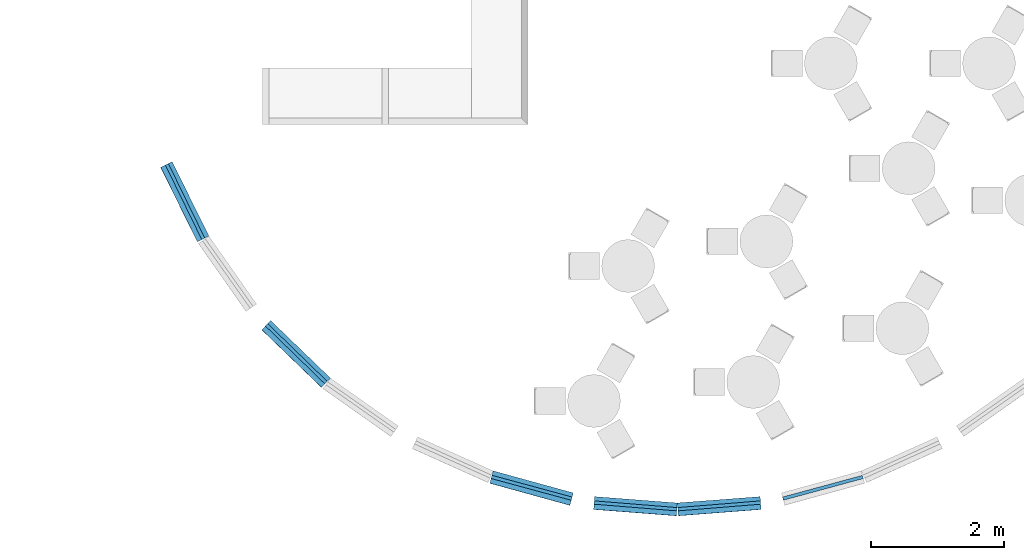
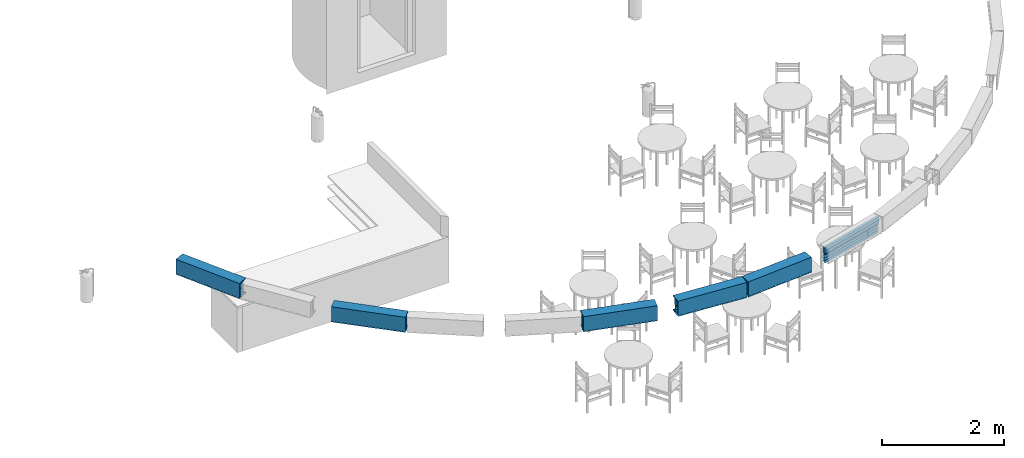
# One storey, part 2 of 6: 11 beams.
"""IFC4 building model written with IfcOpenShell, lengths in millimetres."""

from ifc_helpers import new_model, entity, si_unit, converted_unit, derived_unit, direction, frame, origin_with_axes, place, context, subcontext, project, spatial, line, indexed_curve, outline, composite_profile, extrude, polygons, source, transform, mapped, material, material_profile, profile_set, type_object, element, save


model = new_model("IFC4")

# Units and contexts
model_context = context("Model", 3, precision=0.01, world=origin_with_axes(), true_north=direction((0.0, 1.0)))
body_context = subcontext(model_context, "Body", "Model", "MODEL_VIEW")
ifc_project = project(units=[si_unit("LENGTHUNIT", "METRE", prefix="MILLI"), si_unit("AREAUNIT", "SQUARE_METRE"), si_unit("VOLUMEUNIT", "CUBIC_METRE"), converted_unit("PLANEANGLEUNIT", "DEGREE", entity("IfcPlaneAngleMeasure", 0.0174532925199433), si_unit("PLANEANGLEUNIT", "RADIAN"), dimensions=[0, 0, 0, 0, 0, 0, 0]), converted_unit("TIMEUNIT", "Year", entity("IfcTimeMeasure", 31557600.0), si_unit("TIMEUNIT", "SECOND"), dimensions=[0, 0, 1, 0, 0, 0, 0]), si_unit("MASSUNIT", "GRAM", prefix="KILO"), si_unit("THERMODYNAMICTEMPERATUREUNIT", "DEGREE_CELSIUS"), si_unit("LUMINOUSINTENSITYUNIT", "LUMEN"), si_unit("ENERGYUNIT", "JOULE", prefix="MEGA"), derived_unit("THERMALCONDUCTANCEUNIT", [(si_unit("POWERUNIT", "WATT"), 1), (si_unit("LENGTHUNIT", "METRE"), -1), (si_unit("THERMODYNAMICTEMPERATUREUNIT", "KELVIN"), -1)]), derived_unit("SPECIFICHEATCAPACITYUNIT", [(si_unit("ENERGYUNIT", "JOULE"), 1), (si_unit("MASSUNIT", "GRAM", prefix="KILO"), -1), (si_unit("THERMODYNAMICTEMPERATUREUNIT", "KELVIN"), -1)]), derived_unit("MASSDENSITYUNIT", [(si_unit("MASSUNIT", "GRAM", prefix="KILO"), 1), (si_unit("VOLUMEUNIT", "CUBIC_METRE"), -1)])], contexts=[model_context])

# Site, building, storey
site_placement = place(None, origin_with_axes())
site = spatial("IfcSite", under=ifc_project, at=site_placement, Name="Exteriér", CompositionType="ELEMENT")
building_placement = place(site_placement, origin_with_axes())
building = spatial("IfcBuilding", under=site, at=building_placement, Name="Univerzitní lezecké centrum", CompositionType="ELEMENT")
storey_placement = place(building_placement, origin_with_axes())
storey = spatial("IfcBuildingStorey", under=building, at=storey_placement, Name="1.NP", CompositionType="ELEMENT", Elevation=0.0)

# Beams
beam_type_1 = type_object("IfcBeamType", Name="Benátské žaluzie 27", PredefinedType="BEAM")
shared_shape_1 = source(origin_with_axes(), body_context, "Body", "Tessellation", [
    polygons([(1250.0, 0.0, 2660.0), (0.0, 0.0, 2660.0), (0.0, 50.0, 2660.0), (1250.0, 50.0, 2660.0), (1250.0, 0.0, 2780.0), (0.0, 0.0, 2780.0), (0.0, 50.0, 2780.0), (1250.0, 50.0, 2780.0)], [[[1, 2, 3, 4]], [[2, 1, 5, 6]], [[3, 2, 6, 7]], [[4, 3, 7, 8]], [[1, 4, 8, 5]], [[6, 5, 8, 7]]], closed=True),
    polygons([(250.5, 5.688538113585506, 2500.0), (249.5, 5.688538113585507, 2500.0), (249.0, 6.554563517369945, 2500.0), (249.5, 7.420588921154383, 2500.0), (250.5, 7.420588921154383, 2500.0), (251.0, 6.554563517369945, 2500.0), (250.5, 5.688538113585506, 2660.0), (249.5, 5.688538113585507, 2660.0), (249.0, 6.554563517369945, 2660.0), (249.5, 7.420588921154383, 2660.0), (250.5, 7.420588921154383, 2660.0), (251.0, 6.554563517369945, 2660.0)], [[[1, 2, 3, 4, 5, 6]], [[2, 1, 7, 8]], [[3, 2, 8, 9]], [[4, 3, 9, 10]], [[5, 4, 10, 11]], [[6, 5, 11, 12]], [[1, 6, 12, 7]], [[7, 12, 11, 10, 9, 8]]], closed=True),
    polygons([(250.5, 42.57941107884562, 2500.0), (249.5, 42.57941107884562, 2500.0), (249.0, 43.44543648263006, 2500.0), (249.5, 44.31146188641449, 2500.0), (250.5, 44.31146188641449, 2500.0), (251.0, 43.44543648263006, 2500.0), (250.5, 42.57941107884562, 2660.0), (249.5, 42.57941107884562, 2660.0), (249.0, 43.44543648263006, 2660.0), (249.5, 44.31146188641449, 2660.0), (250.5, 44.31146188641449, 2660.0), (251.0, 43.44543648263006, 2660.0)], [[[1, 2, 3, 4, 5, 6]], [[2, 1, 7, 8]], [[3, 2, 8, 9]], [[4, 3, 9, 10]], [[5, 4, 10, 11]], [[6, 5, 11, 12]], [[1, 6, 12, 7]], [[7, 12, 11, 10, 9, 8]]], closed=True),
    polygons([(1000.5, 5.688538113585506, 2500.0), (999.5, 5.688538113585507, 2500.0), (999.0, 6.554563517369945, 2500.0), (999.5, 7.420588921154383, 2500.0), (1000.5, 7.420588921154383, 2500.0), (1001.0, 6.554563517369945, 2500.0), (1000.5, 5.688538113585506, 2660.0), (999.5, 5.688538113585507, 2660.0), (999.0, 6.554563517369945, 2660.0), (999.5, 7.420588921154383, 2660.0), (1000.5, 7.420588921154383, 2660.0), (1001.0, 6.554563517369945, 2660.0)], [[[1, 2, 3, 4, 5, 6]], [[2, 1, 7, 8]], [[3, 2, 8, 9]], [[4, 3, 9, 10]], [[5, 4, 10, 11]], [[6, 5, 11, 12]], [[1, 6, 12, 7]], [[7, 12, 11, 10, 9, 8]]], closed=True),
    polygons([(1000.5, 42.57941107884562, 2500.0), (999.5, 42.57941107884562, 2500.0), (999.0, 43.44543648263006, 2500.0), (999.5, 44.31146188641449, 2500.0), (1000.5, 44.31146188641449, 2500.0), (1001.0, 43.44543648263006, 2500.0), (1000.5, 42.57941107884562, 2660.0), (999.5, 42.57941107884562, 2660.0), (999.0, 43.44543648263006, 2660.0), (999.5, 44.31146188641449, 2660.0), (1000.5, 44.31146188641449, 2660.0), (1001.0, 43.44543648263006, 2660.0)], [[[1, 2, 3, 4, 5, 6]], [[2, 1, 7, 8]], [[3, 2, 8, 9]], [[4, 3, 9, 10]], [[5, 4, 10, 11]], [[6, 5, 11, 12]], [[1, 6, 12, 7]], [[7, 12, 11, 10, 9, 8]]], closed=True),
    polygons([(1250.0, 2.019029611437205, 2477.019029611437), (0.0, 2.019029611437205, 2477.019029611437), (0.0, 47.9809703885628, 2522.980970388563), (1250.0, 47.9809703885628, 2522.980970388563), (1250.0, 1.94831893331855, 2477.089740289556), (0.0, 1.94831893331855, 2477.089740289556), (0.0, 47.91025971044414, 2523.051681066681), (1250.0, 47.91025971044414, 2523.051681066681)], [[[1, 2, 3, 4]], [[2, 1, 5, 6]], [[3, 2, 6, 7]], [[4, 3, 7, 8]], [[1, 4, 8, 5]], [[6, 5, 8, 7]]], closed=True),
    polygons([(1250.0, 2.019029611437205, 2529.019029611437), (0.0, 2.019029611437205, 2529.019029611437), (0.0, 47.9809703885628, 2574.980970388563), (1250.0, 47.9809703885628, 2574.980970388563), (1250.0, 1.94831893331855, 2529.089740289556), (0.0, 1.94831893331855, 2529.089740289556), (0.0, 47.91025971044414, 2575.051681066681), (1250.0, 47.91025971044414, 2575.051681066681)], [[[1, 2, 3, 4]], [[2, 1, 5, 6]], [[3, 2, 6, 7]], [[4, 3, 7, 8]], [[1, 4, 8, 5]], [[6, 5, 8, 7]]], closed=True),
    polygons([(1250.0, 2.019029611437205, 2581.019029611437), (0.0, 2.019029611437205, 2581.019029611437), (0.0, 47.9809703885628, 2626.980970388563), (1250.0, 47.9809703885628, 2626.980970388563), (1250.0, 1.94831893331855, 2581.089740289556), (0.0, 1.94831893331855, 2581.089740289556), (0.0, 47.91025971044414, 2627.051681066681), (1250.0, 47.91025971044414, 2627.051681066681)], [[[1, 2, 3, 4]], [[2, 1, 5, 6]], [[3, 2, 6, 7]], [[4, 3, 7, 8]], [[1, 4, 8, 5]], [[6, 5, 8, 7]]], closed=True),
    polygons([(1250.0, 2.019029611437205, 2633.019029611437), (0.0, 2.019029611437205, 2633.019029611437), (0.0, 47.9809703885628, 2678.980970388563), (1250.0, 47.9809703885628, 2678.980970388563), (1250.0, 1.94831893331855, 2633.089740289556), (0.0, 1.94831893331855, 2633.089740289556), (0.0, 47.91025971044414, 2679.051681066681), (1250.0, 47.91025971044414, 2679.051681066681)], [[[1, 2, 3, 4]], [[2, 1, 5, 6]], [[3, 2, 6, 7]], [[4, 3, 7, 8]], [[1, 4, 8, 5]], [[6, 5, 8, 7]]], closed=True),
    polygons([(1250.0, 2.019029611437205, 2685.019029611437), (0.0, 2.019029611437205, 2685.019029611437), (0.0, 47.9809703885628, 2730.980970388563), (1250.0, 47.9809703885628, 2730.980970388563), (1250.0, 1.94831893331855, 2685.089740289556), (0.0, 1.94831893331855, 2685.089740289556), (0.0, 47.91025971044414, 2731.051681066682), (1250.0, 47.91025971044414, 2731.051681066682)], [[[1, 2, 3, 4]], [[2, 1, 5, 6]], [[3, 2, 6, 7]], [[4, 3, 7, 8]], [[1, 4, 8, 5]], [[6, 5, 8, 7]]], closed=True),
])
for number, where, z_axis, x_axis, name in (
    (1, (1195.766088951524, -8518.614067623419, 0.0), (0.0, 0.0, 1.0), (0.9967625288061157, -0.0804018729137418, 0.0), "OV11"),
    (2, (4047.005502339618, -8459.249430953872, 0.0), (0.0, 0.0, 1.0), (0.9651394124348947, 0.261736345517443, 0.0), "OV11"),
    (3, (-5260.179149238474, -3410.443930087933, 0.0), (0.0, 0.0, 1.0), (0.4390979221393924, -0.8984392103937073, 0.0), "OV11"),
    (4, (-3753.097023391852, -5835.356464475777, 0.0), (0.0, 0.0, 1.0), (0.7171771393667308, -0.6968909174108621, 0.0), "OV11"),
):
    element("IfcBeam", number, at=place(storey_placement, frame(where, z_axis=z_axis, x_axis=x_axis)), inside=storey, type_object=beam_type_1, Name=name, PredefinedType="BEAM", context=body_context, shape_type="MappedRepresentation", body=[
        mapped(shared_shape_1, transform((0.0, 0.0, 0.0))),
    ])
shared_shape_2 = source(origin_with_axes(), body_context, "Body", "Tessellation", [
    polygons([(-1250.0, 0.0, 2660.0), (-1250.0, 50.0, 2660.0), (0.0, 50.0, 2660.0), (0.0, 0.0, 2660.0), (-1250.0, 0.0, 2780.0), (-1250.0, 50.0, 2780.0), (0.0, 50.0, 2780.0), (0.0, 0.0, 2780.0)], [[[1, 2, 3, 4]], [[1, 5, 6, 2]], [[2, 6, 7, 3]], [[3, 7, 8, 4]], [[4, 8, 5, 1]], [[8, 7, 6, 5]]], closed=True),
    polygons([(-250.5, 5.688538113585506, 2500.0), (-251.0, 6.554563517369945, 2500.0), (-250.5, 7.420588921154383, 2500.0), (-249.5, 7.420588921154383, 2500.0), (-249.0, 6.554563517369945, 2500.0), (-249.5, 5.688538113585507, 2500.0), (-250.5, 5.688538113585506, 2660.0), (-251.0, 6.554563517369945, 2660.0), (-250.5, 7.420588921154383, 2660.0), (-249.5, 7.420588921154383, 2660.0), (-249.0, 6.554563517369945, 2660.0), (-249.5, 5.688538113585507, 2660.0)], [[[1, 2, 3, 4, 5, 6]], [[1, 7, 8, 2]], [[2, 8, 9, 3]], [[3, 9, 10, 4]], [[4, 10, 11, 5]], [[5, 11, 12, 6]], [[6, 12, 7, 1]], [[7, 12, 11, 10, 9, 8]]], closed=True),
    polygons([(-250.5, 42.57941107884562, 2500.0), (-251.0, 43.44543648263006, 2500.0), (-250.5, 44.31146188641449, 2500.0), (-249.5, 44.31146188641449, 2500.0), (-249.0, 43.44543648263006, 2500.0), (-249.5, 42.57941107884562, 2500.0), (-250.5, 42.57941107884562, 2660.0), (-251.0, 43.44543648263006, 2660.0), (-250.5, 44.31146188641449, 2660.0), (-249.5, 44.31146188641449, 2660.0), (-249.0, 43.44543648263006, 2660.0), (-249.5, 42.57941107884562, 2660.0)], [[[1, 2, 3, 4, 5, 6]], [[1, 7, 8, 2]], [[2, 8, 9, 3]], [[3, 9, 10, 4]], [[4, 10, 11, 5]], [[5, 11, 12, 6]], [[6, 12, 7, 1]], [[7, 12, 11, 10, 9, 8]]], closed=True),
    polygons([(-1000.5, 5.688538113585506, 2500.0), (-1001.0, 6.554563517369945, 2500.0), (-1000.5, 7.420588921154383, 2500.0), (-999.5, 7.420588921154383, 2500.0), (-999.0, 6.554563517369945, 2500.0), (-999.5, 5.688538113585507, 2500.0), (-1000.5, 5.688538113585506, 2660.0), (-1001.0, 6.554563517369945, 2660.0), (-1000.5, 7.420588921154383, 2660.0), (-999.5, 7.420588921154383, 2660.0), (-999.0, 6.554563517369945, 2660.0), (-999.5, 5.688538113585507, 2660.0)], [[[1, 2, 3, 4, 5, 6]], [[1, 7, 8, 2]], [[2, 8, 9, 3]], [[3, 9, 10, 4]], [[4, 10, 11, 5]], [[5, 11, 12, 6]], [[6, 12, 7, 1]], [[7, 12, 11, 10, 9, 8]]], closed=True),
    polygons([(-1000.5, 42.57941107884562, 2500.0), (-1001.0, 43.44543648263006, 2500.0), (-1000.5, 44.31146188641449, 2500.0), (-999.5, 44.31146188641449, 2500.0), (-999.0, 43.44543648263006, 2500.0), (-999.5, 42.57941107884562, 2500.0), (-1000.5, 42.57941107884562, 2660.0), (-1001.0, 43.44543648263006, 2660.0), (-1000.5, 44.31146188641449, 2660.0), (-999.5, 44.31146188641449, 2660.0), (-999.0, 43.44543648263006, 2660.0), (-999.5, 42.57941107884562, 2660.0)], [[[1, 2, 3, 4, 5, 6]], [[1, 7, 8, 2]], [[2, 8, 9, 3]], [[3, 9, 10, 4]], [[4, 10, 11, 5]], [[5, 11, 12, 6]], [[6, 12, 7, 1]], [[7, 12, 11, 10, 9, 8]]], closed=True),
    polygons([(-1250.0, 2.019029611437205, 2477.019029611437), (-1250.0, 47.9809703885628, 2522.980970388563), (0.0, 47.9809703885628, 2522.980970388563), (0.0, 2.019029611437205, 2477.019029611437), (-1250.0, 1.94831893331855, 2477.089740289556), (-1250.0, 47.91025971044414, 2523.051681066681), (0.0, 47.91025971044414, 2523.051681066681), (0.0, 1.94831893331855, 2477.089740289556)], [[[1, 2, 3, 4]], [[1, 5, 6, 2]], [[2, 6, 7, 3]], [[3, 7, 8, 4]], [[4, 8, 5, 1]], [[8, 7, 6, 5]]], closed=True),
    polygons([(-1250.0, 2.019029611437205, 2529.019029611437), (-1250.0, 47.9809703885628, 2574.980970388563), (0.0, 47.9809703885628, 2574.980970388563), (0.0, 2.019029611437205, 2529.019029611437), (-1250.0, 1.94831893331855, 2529.089740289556), (-1250.0, 47.91025971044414, 2575.051681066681), (0.0, 47.91025971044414, 2575.051681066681), (0.0, 1.94831893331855, 2529.089740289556)], [[[1, 2, 3, 4]], [[1, 5, 6, 2]], [[2, 6, 7, 3]], [[3, 7, 8, 4]], [[4, 8, 5, 1]], [[8, 7, 6, 5]]], closed=True),
    polygons([(-1250.0, 2.019029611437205, 2581.019029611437), (-1250.0, 47.9809703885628, 2626.980970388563), (0.0, 47.9809703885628, 2626.980970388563), (0.0, 2.019029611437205, 2581.019029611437), (-1250.0, 1.94831893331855, 2581.089740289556), (-1250.0, 47.91025971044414, 2627.051681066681), (0.0, 47.91025971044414, 2627.051681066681), (0.0, 1.94831893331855, 2581.089740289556)], [[[1, 2, 3, 4]], [[1, 5, 6, 2]], [[2, 6, 7, 3]], [[3, 7, 8, 4]], [[4, 8, 5, 1]], [[8, 7, 6, 5]]], closed=True),
    polygons([(-1250.0, 2.019029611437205, 2633.019029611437), (-1250.0, 47.9809703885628, 2678.980970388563), (0.0, 47.9809703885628, 2678.980970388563), (0.0, 2.019029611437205, 2633.019029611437), (-1250.0, 1.94831893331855, 2633.089740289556), (-1250.0, 47.91025971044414, 2679.051681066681), (0.0, 47.91025971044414, 2679.051681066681), (0.0, 1.94831893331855, 2633.089740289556)], [[[1, 2, 3, 4]], [[1, 5, 6, 2]], [[2, 6, 7, 3]], [[3, 7, 8, 4]], [[4, 8, 5, 1]], [[8, 7, 6, 5]]], closed=True),
    polygons([(-1250.0, 2.019029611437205, 2685.019029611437), (-1250.0, 47.9809703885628, 2730.980970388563), (0.0, 47.9809703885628, 2730.980970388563), (0.0, 2.019029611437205, 2685.019029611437), (-1250.0, 1.94831893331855, 2685.089740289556), (-1250.0, 47.91025971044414, 2731.051681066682), (0.0, 47.91025971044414, 2731.051681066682), (0.0, 1.94831893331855, 2685.089740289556)], [[[1, 2, 3, 4]], [[1, 5, 6, 2]], [[2, 6, 7, 3]], [[3, 7, 8, 4]], [[4, 8, 5, 1]], [[8, 7, 6, 5]]], closed=True),
])
for number, where, z_axis, x_axis, name in (
    (5, (3706.320387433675, -8518.614067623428, 0.0), (0.0, 0.0, 1.0), (0.9967625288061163, 0.08040187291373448, 0.0), "OV11"),
    (6, (852.9700214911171, -8459.302712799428, 0.0), (0.0, 0.0, 1.0), (0.9651481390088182, -0.2617041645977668, 0.0), "OV11"),
):
    element("IfcBeam", number, at=place(storey_placement, frame(where, z_axis=z_axis, x_axis=x_axis)), inside=storey, type_object=beam_type_1, Name=name, PredefinedType="BEAM", context=body_context, shape_type="MappedRepresentation", body=[
        mapped(shared_shape_2, transform((0.0, 0.0, 0.0))),
    ])
ifc_material_1 = material(Name="Tepelná izolace - purenit")
ifc_material_profile_1 = material_profile(ifc_material_1, outline(indexed_curve([(0.0, 0.0), (20.00000298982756, 0.0), (20.00000214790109, 14.99999879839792), (20.00000298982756, 280.2088283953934), (20.00000298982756, 299.7478608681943), (4.466595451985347e-06, 299.7478608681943), (-2.257316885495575e-06, 14.99999879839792)], segments=[line(1, 2, 3, 4, 5, 6, 7, 1)])), Name="Tepelná izolace - purenit 1")
ifc_material_profile_2 = material_profile(ifc_material_1, outline(indexed_curve([(20.0000037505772, 299.7478608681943), (20.0000037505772, 280.2088261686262), (106.1411099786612, 280.2088249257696), (123.1338630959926, 280.2088249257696), (193.0000299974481, 280.2088261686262), (193.0000299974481, 299.7478608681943)], segments=[line(1, 2, 3, 4, 5, 6, 1)])), Name="Tepelná izolace - purenit 2")
ifc_material_2 = material(Name="Hliník")
ifc_material_profile_3 = material_profile(ifc_material_2, outline(indexed_curve([(-2.257316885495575e-06, 14.99999879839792), (-2.000000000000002, 14.99999879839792), (-1.999995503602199, -2.25731666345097e-06), (-1.999995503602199, -1.99999999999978), (22.00000438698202, -1.99999999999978), (22.00000438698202, 14.99999879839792), (20.00000214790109, 14.99999879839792), (20.00000214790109, 2.239081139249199e-06), (2.239080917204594e-06, 2.239081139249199e-06)], segments=[line(1, 2, 3, 4, 5, 6, 7, 8, 9, 1)])), Name="Hliník 1")
ifc_material_profile_4 = material_profile(ifc_material_2, outline(indexed_curve([(106.1411099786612, 278.2010085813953), (120.9999087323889, 278.2189550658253), (120.9999087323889, -1.999997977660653), (193.0000306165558, -2.022881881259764), (193.0000306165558, 22.99604630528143), (191.0000296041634, 22.99604630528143), (191.0000296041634, 0.0006370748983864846), (123.4722741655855, 0.0006370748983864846), (123.1435086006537, 272.2215421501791), (123.1338630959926, 280.2088249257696), (106.1411099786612, 280.2088249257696)], segments=[line(1, 2, 3, 4, 5, 6, 7, 8, 9, 10, 11, 1)])), Name="Hliník 2")
ifc_profile_set = profile_set([ifc_material_profile_1, ifc_material_profile_2, ifc_material_profile_3, ifc_material_profile_4], Name="Purenitový podomítkový box", composite=composite_profile([outline(indexed_curve([(0.0, 0.0), (20.00000298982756, 0.0), (20.00000214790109, 14.99999879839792), (20.00000298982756, 280.2088283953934), (20.00000298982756, 299.7478608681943), (4.466595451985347e-06, 299.7478608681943), (-2.257316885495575e-06, 14.99999879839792)], segments=[line(1, 2, 3, 4, 5, 6, 7, 1)])), outline(indexed_curve([(20.0000037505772, 299.7478608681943), (20.0000037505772, 280.2088261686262), (106.1411099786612, 280.2088249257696), (123.1338630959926, 280.2088249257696), (193.0000299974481, 280.2088261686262), (193.0000299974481, 299.7478608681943)], segments=[line(1, 2, 3, 4, 5, 6, 1)])), outline(indexed_curve([(-2.257316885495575e-06, 14.99999879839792), (-2.000000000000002, 14.99999879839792), (-1.999995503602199, -2.25731666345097e-06), (-1.999995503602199, -1.99999999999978), (22.00000438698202, -1.99999999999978), (22.00000438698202, 14.99999879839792), (20.00000214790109, 14.99999879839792), (20.00000214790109, 2.239081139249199e-06), (2.239080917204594e-06, 2.239081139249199e-06)], segments=[line(1, 2, 3, 4, 5, 6, 7, 8, 9, 1)])), outline(indexed_curve([(106.1411099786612, 278.2010085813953), (120.9999087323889, 278.2189550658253), (120.9999087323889, -1.999997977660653), (193.0000306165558, -2.022881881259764), (193.0000306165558, 22.99604630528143), (191.0000296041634, 22.99604630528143), (191.0000296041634, 0.0006370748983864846), (123.4722741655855, 0.0006370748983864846), (123.1435086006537, 272.2215421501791), (123.1338630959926, 280.2088249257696), (106.1411099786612, 280.2088249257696)], segments=[line(1, 2, 3, 4, 5, 6, 7, 8, 9, 10, 11, 1)]))]))
beam_type_2 = type_object("IfcBeamType", Name="Purenitový podomítkový box 195 x 302", PredefinedType="BEAM")
beam_1_placement = place(storey_placement, frame((2436.288204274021, -8692.540062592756, 2500.0), z_axis=(0.0, 0.0, 1.0), x_axis=(0.07645094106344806, 0.9970733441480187, 0.0)))
element("IfcBeam", 7, at=beam_1_placement, inside=storey, type_object=beam_type_2, material=ifc_profile_set, Name="OV10", PredefinedType="BEAM", context=body_context, shape_type="SweptSolid", body=[
    extrude(composite_profile([outline(indexed_curve([(0.0, 0.0), (20.00000298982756, 0.0), (20.00000214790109, 14.99999879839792), (20.00000298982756, 280.2088283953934), (20.00000298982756, 299.7478608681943), (4.466595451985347e-06, 299.7478608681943), (-2.257316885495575e-06, 14.99999879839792)], segments=[line(1, 2, 3, 4, 5, 6, 7, 1)])), outline(indexed_curve([(20.0000037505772, 299.7478608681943), (20.0000037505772, 280.2088261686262), (106.1411099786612, 280.2088249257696), (123.1338630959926, 280.2088249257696), (193.0000299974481, 280.2088261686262), (193.0000299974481, 299.7478608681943)], segments=[line(1, 2, 3, 4, 5, 6, 1)])), outline(indexed_curve([(-2.257316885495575e-06, 14.99999879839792), (-2.000000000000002, 14.99999879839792), (-1.999995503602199, -2.25731666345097e-06), (-1.999995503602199, -1.99999999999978), (22.00000438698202, -1.99999999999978), (22.00000438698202, 14.99999879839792), (20.00000214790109, 14.99999879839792), (20.00000214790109, 2.239081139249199e-06), (2.239080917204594e-06, 2.239081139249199e-06)], segments=[line(1, 2, 3, 4, 5, 6, 7, 8, 9, 1)])), outline(indexed_curve([(106.1411099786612, 278.2010085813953), (120.9999087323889, 278.2189550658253), (120.9999087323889, -1.999997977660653), (193.0000306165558, -2.022881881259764), (193.0000306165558, 22.99604630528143), (191.0000296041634, 22.99604630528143), (191.0000296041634, 0.0006370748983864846), (123.4722741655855, 0.0006370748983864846), (123.1435086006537, 272.2215421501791), (123.1338630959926, 280.2088249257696), (106.1411099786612, 280.2088249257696)], segments=[line(1, 2, 3, 4, 5, 6, 7, 8, 9, 10, 11, 1)]))]), frame((0.0, 1250.000000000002, 0.0), z_axis=(0.0, -1.0, 0.0), x_axis=(1.0, 0.0, 0.0)), (0.0, 0.0, 1.0), 1250.000000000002),
])
for number, where, z_axis, x_axis, name in (
    (8, (2465.798272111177, -8692.540062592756, 2500.0), (0.0, 0.0, 1.0), (0.07645094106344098, -0.9970733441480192, 0.0), "OV10"),
    (9, (-373.2053579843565, -8203.101016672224, 2500.0), (0.0, 0.0, 1.0), (-0.2655271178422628, -0.9641033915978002, 0.0), "OV10"),
):
    element("IfcBeam", number, at=place(storey_placement, frame(where, z_axis=z_axis, x_axis=x_axis)), inside=storey, type_object=beam_type_2, material=ifc_profile_set, Name=name, PredefinedType="BEAM", context=body_context, shape_type="SweptSolid", body=[
        extrude(composite_profile([outline(indexed_curve([(0.0, 0.0), (20.00000298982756, 0.0), (20.00000214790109, 14.99999879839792), (20.00000298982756, 280.2088283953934), (20.00000298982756, 299.7478608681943), (4.466595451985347e-06, 299.7478608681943), (-2.257316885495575e-06, 14.99999879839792)], segments=[line(1, 2, 3, 4, 5, 6, 7, 1)])), outline(indexed_curve([(20.0000037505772, 299.7478608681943), (20.0000037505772, 280.2088261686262), (106.1411099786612, 280.2088249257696), (123.1338630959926, 280.2088249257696), (193.0000299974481, 280.2088261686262), (193.0000299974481, 299.7478608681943)], segments=[line(1, 2, 3, 4, 5, 6, 1)])), outline(indexed_curve([(-2.257316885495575e-06, 14.99999879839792), (-2.000000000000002, 14.99999879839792), (-1.999995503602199, -2.25731666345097e-06), (-1.999995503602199, -1.99999999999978), (22.00000438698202, -1.99999999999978), (22.00000438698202, 14.99999879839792), (20.00000214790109, 14.99999879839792), (20.00000214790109, 2.239081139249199e-06), (2.239080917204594e-06, 2.239081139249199e-06)], segments=[line(1, 2, 3, 4, 5, 6, 7, 8, 9, 1)])), outline(indexed_curve([(106.1411099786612, 278.2010085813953), (120.9999087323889, 278.2189550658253), (120.9999087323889, -1.999997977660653), (193.0000306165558, -2.022881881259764), (193.0000306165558, 22.99604630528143), (191.0000296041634, 22.99604630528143), (191.0000296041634, 0.0006370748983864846), (123.4722741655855, 0.0006370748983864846), (123.1435086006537, 272.2215421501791), (123.1338630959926, 280.2088249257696), (106.1411099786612, 280.2088249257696)], segments=[line(1, 2, 3, 4, 5, 6, 7, 8, 9, 10, 11, 1)]))]), frame((0.0, 1250.000000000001, 0.0), z_axis=(0.0, 1.0, 0.0), x_axis=(-1.0, 0.0, 0.0)), (0.0, 0.0, -1.0), 1250.000000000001),
    ])
beam_2_placement = place(storey_placement, frame((-4777.23705887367, -4566.260657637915, 2500.0), z_axis=(0.0, 0.0, 1.0), x_axis=(0.896691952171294, 0.4426551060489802, 0.0)))
element("IfcBeam", 10, at=beam_2_placement, inside=storey, type_object=beam_type_2, material=ifc_profile_set, Name="OV10", PredefinedType="BEAM", context=body_context, shape_type="SweptSolid", body=[
    extrude(composite_profile([outline(indexed_curve([(0.0, 0.0), (20.00000298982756, 0.0), (20.00000214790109, 14.99999879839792), (20.00000298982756, 280.2088283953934), (20.00000298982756, 299.7478608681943), (4.466595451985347e-06, 299.7478608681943), (-2.257316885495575e-06, 14.99999879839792)], segments=[line(1, 2, 3, 4, 5, 6, 7, 1)])), outline(indexed_curve([(20.0000037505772, 299.7478608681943), (20.0000037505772, 280.2088261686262), (106.1411099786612, 280.2088249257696), (123.1338630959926, 280.2088249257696), (193.0000299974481, 280.2088261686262), (193.0000299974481, 299.7478608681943)], segments=[line(1, 2, 3, 4, 5, 6, 1)])), outline(indexed_curve([(-2.257316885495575e-06, 14.99999879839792), (-2.000000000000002, 14.99999879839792), (-1.999995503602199, -2.25731666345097e-06), (-1.999995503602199, -1.99999999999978), (22.00000438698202, -1.99999999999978), (22.00000438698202, 14.99999879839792), (20.00000214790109, 14.99999879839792), (20.00000214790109, 2.239081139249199e-06), (2.239080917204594e-06, 2.239081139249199e-06)], segments=[line(1, 2, 3, 4, 5, 6, 7, 8, 9, 1)])), outline(indexed_curve([(106.1411099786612, 278.2010085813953), (120.9999087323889, 278.2189550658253), (120.9999087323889, -1.999997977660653), (193.0000306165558, -2.022881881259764), (193.0000306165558, 22.99604630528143), (191.0000296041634, 22.99604630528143), (191.0000296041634, 0.0006370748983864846), (123.4722741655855, 0.0006370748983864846), (123.1435086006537, 272.2215421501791), (123.1338630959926, 280.2088249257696), (106.1411099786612, 280.2088249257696)], segments=[line(1, 2, 3, 4, 5, 6, 7, 8, 9, 10, 11, 1)]))]), frame((0.0, 1250.0, 0.0), z_axis=(0.0, -1.0, 0.0), x_axis=(1.0, 0.0, 0.0)), (0.0, 0.0, 1.0), 1250.0),
])
beam_3_placement = place(storey_placement, frame((-2907.581158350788, -6759.611998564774, 2500.0), z_axis=(0.0, 0.0, 1.0), x_axis=(0.6940431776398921, 0.7199333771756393, 0.0)))
element("IfcBeam", 11, at=beam_3_placement, inside=storey, type_object=beam_type_2, material=ifc_profile_set, Name="OV10", PredefinedType="BEAM", context=body_context, shape_type="SweptSolid", body=[
    extrude(composite_profile([outline(indexed_curve([(0.0, 0.0), (20.00000298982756, 0.0), (20.00000214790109, 14.99999879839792), (20.00000298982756, 280.2088283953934), (20.00000298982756, 299.7478608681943), (4.466595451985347e-06, 299.7478608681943), (-2.257316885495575e-06, 14.99999879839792)], segments=[line(1, 2, 3, 4, 5, 6, 7, 1)])), outline(indexed_curve([(20.0000037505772, 299.7478608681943), (20.0000037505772, 280.2088261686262), (106.1411099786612, 280.2088249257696), (123.1338630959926, 280.2088249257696), (193.0000299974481, 280.2088261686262), (193.0000299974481, 299.7478608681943)], segments=[line(1, 2, 3, 4, 5, 6, 1)])), outline(indexed_curve([(-2.257316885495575e-06, 14.99999879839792), (-2.000000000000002, 14.99999879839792), (-1.999995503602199, -2.25731666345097e-06), (-1.999995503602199, -1.99999999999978), (22.00000438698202, -1.99999999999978), (22.00000438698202, 14.99999879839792), (20.00000214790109, 14.99999879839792), (20.00000214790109, 2.239081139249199e-06), (2.239080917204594e-06, 2.239081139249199e-06)], segments=[line(1, 2, 3, 4, 5, 6, 7, 8, 9, 1)])), outline(indexed_curve([(106.1411099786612, 278.2010085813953), (120.9999087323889, 278.2189550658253), (120.9999087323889, -1.999997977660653), (193.0000306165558, -2.022881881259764), (193.0000306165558, 22.99604630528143), (191.0000296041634, 22.99604630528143), (191.0000296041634, 0.0006370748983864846), (123.4722741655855, 0.0006370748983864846), (123.1435086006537, 272.2215421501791), (123.1338630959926, 280.2088249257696), (106.1411099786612, 280.2088249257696)], segments=[line(1, 2, 3, 4, 5, 6, 7, 8, 9, 10, 11, 1)]))]), frame((0.0, 1250.000000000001, 0.0), z_axis=(0.0, -1.0, 0.0), x_axis=(1.0, 0.0, 0.0)), (0.0, 0.0, 1.0), 1250.000000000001),
])

save(model, "model.ifc")
